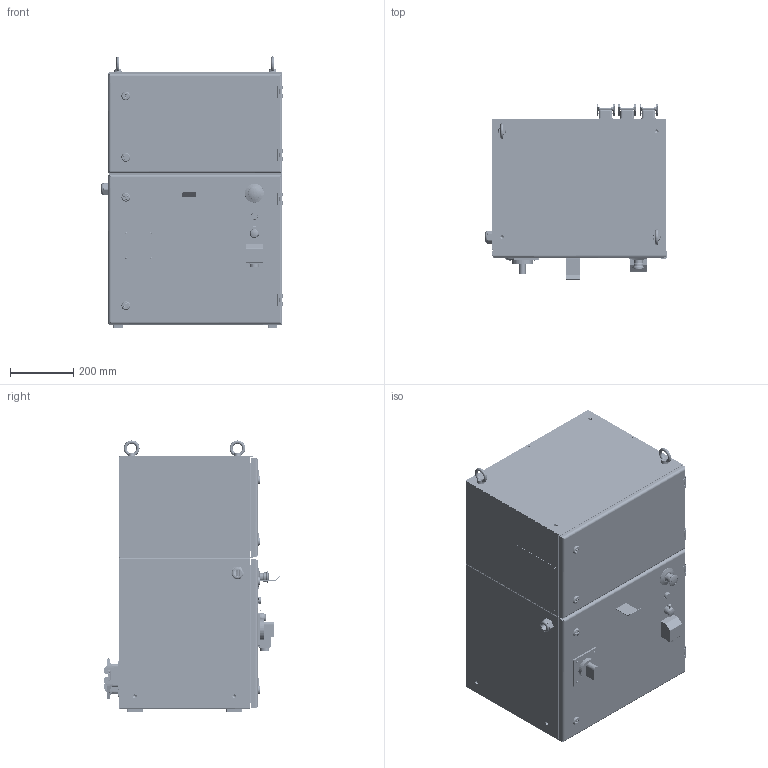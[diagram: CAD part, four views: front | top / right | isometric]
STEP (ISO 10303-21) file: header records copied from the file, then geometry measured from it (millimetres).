
FILE_DESCRIPTION((''),'2;1');
FILE_NAME('N2M_8','2022-01-11T09:50:13',('choes'),(''),'CREO PARAMETRIC BY PTC INC, 2020354','CREO PARAMETRIC BY PTC INC, 2020354','');
FILE_SCHEMA(('CONFIG_CONTROL_DESIGN'));
Products named in the file (1): N2M_8
Bounding box: 574.7 x 555.86 x 858.5 mm (x, y, z)
Volume: 7781746.4 mm3; surface area: 8356688.6 mm2
Topology: 20 solids, 336 shells, 19736 faces, 55017 edges, 35434 vertices
Faces by surface type: plane 10021, cylinder 6285, cone 1686, bspline 1033, torus 648, sphere 52, extrusion 11
Entity records: 781413 total; most frequent: CARTESIAN_POINT 274932, ORIENTED_EDGE 107535, DIRECTION 103090, EDGE_CURVE 54842, AXIS2_PLACEMENT_3D 35712, VERTEX_POINT 35434, VECTOR 31666, LINE 31655
